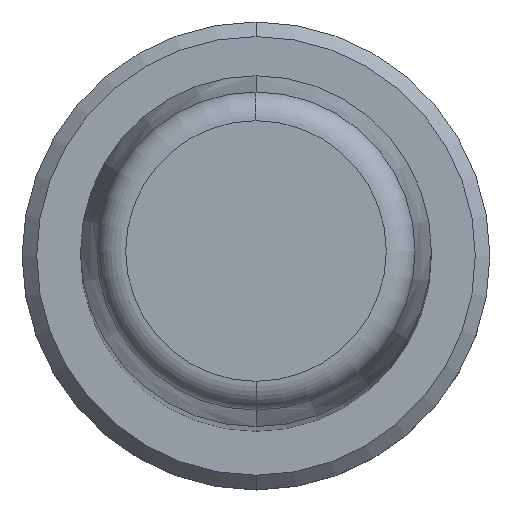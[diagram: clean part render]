
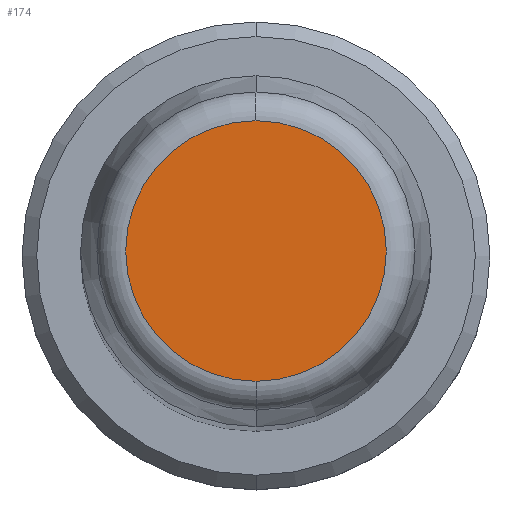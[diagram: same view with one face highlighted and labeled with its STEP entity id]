
A CAD part, top view. The second image highlights one B-rep face of the part: STEP entity #174.
In plain terms, the highlighted planar face has unit normal (0, 0, 1).
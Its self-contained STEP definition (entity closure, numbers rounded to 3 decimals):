
#1=CARTESIAN_POINT('',(0.,0.,100.));
#2=DIRECTION('',(0.,0.,-1.));
#3=DIRECTION('',(0.,-1.,0.));
#4=AXIS2_PLACEMENT_3D('',#1,#2,#3);
#6=CARTESIAN_POINT('',(0.,0.,100.));
#7=DIRECTION('',(0.,0.,-1.));
#8=DIRECTION('',(0.,1.,0.));
#9=AXIS2_PLACEMENT_3D('',#6,#7,#8);
#159=CARTESIAN_POINT('',(0.,-4.456,100.));
#160=CARTESIAN_POINT('',(0.,4.456,100.));
#161=VERTEX_POINT('',#159);
#162=VERTEX_POINT('',#160);
#163=CARTESIAN_POINT('',(0.,0.,100.));
#164=DIRECTION('',(0.,0.,1.));
#165=DIRECTION('',(0.,-1.,0.));
#166=AXIS2_PLACEMENT_3D('',#163,#164,#165);
#167=PLANE('',#166);
#169=ORIENTED_EDGE('',*,*,#168,.T.);
#171=ORIENTED_EDGE('',*,*,#170,.T.);
#172=EDGE_LOOP('',(#169,#171));
#173=FACE_OUTER_BOUND('',#172,.F.);
#174=ADVANCED_FACE('',(#173),#167,.T.);
#5=CIRCLE('',#4,4.456);
#10=CIRCLE('',#9,4.456);
#168=EDGE_CURVE('',#161,#162,#5,.T.);
#170=EDGE_CURVE('',#162,#161,#10,.T.);
